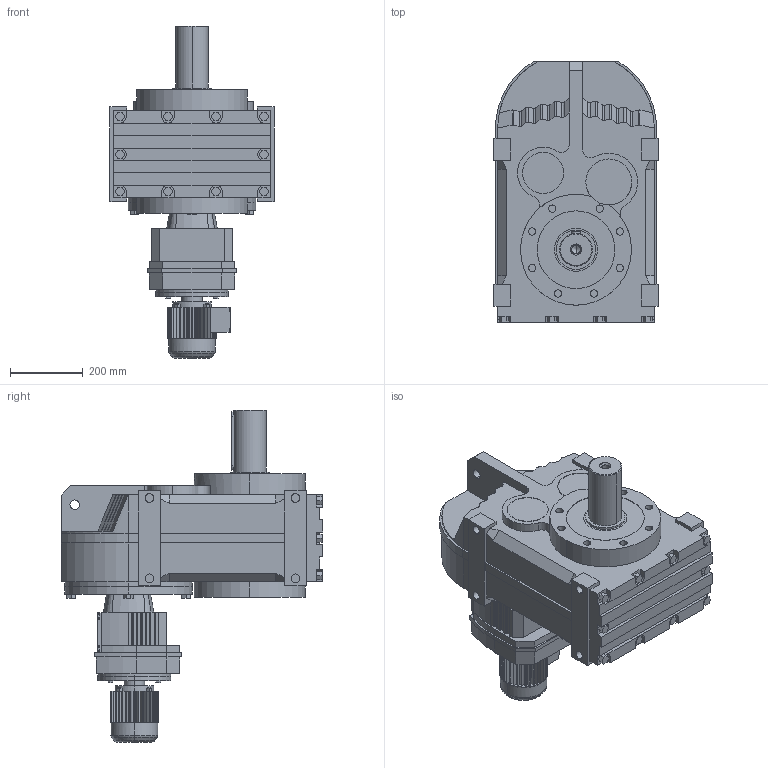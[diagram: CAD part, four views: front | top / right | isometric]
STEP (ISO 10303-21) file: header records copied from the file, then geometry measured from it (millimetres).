
FILE_DESCRIPTION(('Open CASCADE Model'),'2;1');
FILE_NAME('Open CASCADE Shape Model','2021-07-24T10:29:30',('Author'),( 'Open CASCADE'),'Open CASCADE STEP processor 6.3','Open CASCADE 6.3' ,'Unknown');
FILE_SCHEMA(('AUTOMOTIVE_DESIGN_CC2 { 1 2 10303 214 -1 1 5 4 }'));
Length unit declared in the file: millimetre
Products named in the file (5): 1_F107R77DR63; FAZ27‵157_107.step; 萇儂_200-DR63-179-234-132-105.step; R_107_77.step; す瑩妗陑粣F_107.step
Assembly tree (4 placements, depth 2):
  1_F107R77DR63
    FAZ27‵157_107.step
    萇儂_200-DR63-179-234-132-105.step
    R_107_77.step
    す瑩妗陑粣F_107.step
Bounding box: 450 x 717 x 910 mm (x, y, z)
Volume: 89841797 mm3; surface area: 2357050.4 mm2
Topology: 4 solids, 4 shells, 1017 faces, 2690 edges, 1758 vertices
Faces by surface type: plane 752, cylinder 229, bspline 16, cone 16, torus 4
Entity records: 68801 total; most frequent: CARTESIAN_POINT 16756, DIRECTION 9180, LINE 5481, VECTOR 5481, ORIENTED_EDGE 5376, PCURVE 5376, DEFINITIONAL_REPRESENTATION 5376, EDGE_CURVE 2688
